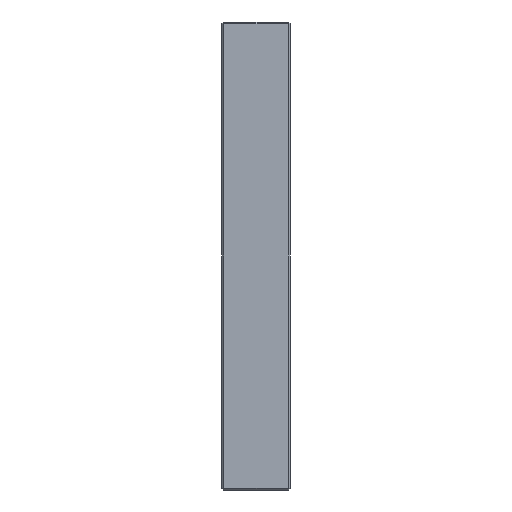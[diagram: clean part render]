
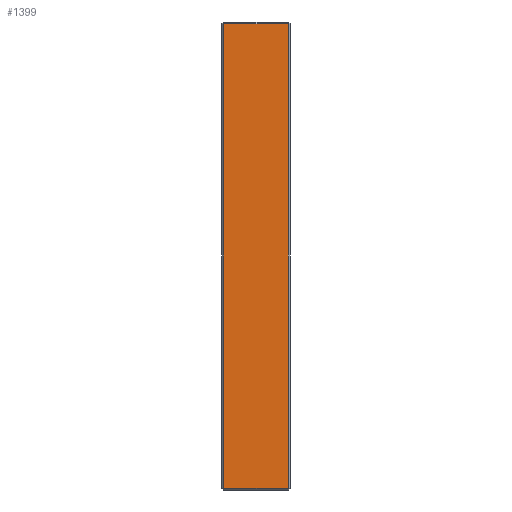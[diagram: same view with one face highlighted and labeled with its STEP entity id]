
A CAD part, left-side view. The second image highlights one B-rep face of the part: STEP entity #1399.
In plain terms, the highlighted planar face has unit normal (-1, 0, 0).
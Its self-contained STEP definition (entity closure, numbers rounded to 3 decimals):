
#3 = CARTESIAN_POINT ( 'NONE',  ( -123., 36., 122. ) ) ;
#4 = DIRECTION ( 'NONE',  ( 0., 0., -1. ) ) ;
#59 = ORIENTED_EDGE ( 'NONE', *, *, #733, .T. ) ;
#68 = LINE ( 'NONE', #735, #1520 ) ;
#114 = VERTEX_POINT ( 'NONE', #1698 ) ;
#296 = EDGE_LOOP ( 'NONE', ( #1778, #618, #1843, #59 ) ) ;
#334 = VERTEX_POINT ( 'NONE', #463 ) ;
#335 = LINE ( 'NONE', #3, #1061 ) ;
#379 = LINE ( 'NONE', #881, #1880 ) ;
#463 = CARTESIAN_POINT ( 'NONE',  ( -123., 35., -122. ) ) ;
#556 = CARTESIAN_POINT ( 'NONE',  ( -123., 1., 122. ) ) ;
#561 = VERTEX_POINT ( 'NONE', #556 ) ;
#618 = ORIENTED_EDGE ( 'NONE', *, *, #694, .T. ) ;
#644 = DIRECTION ( 'NONE',  ( 0., 1., 0. ) ) ;
#662 = VERTEX_POINT ( 'NONE', #748 ) ;
#682 = EDGE_CURVE ( 'NONE', #334, #662, #68, .T. ) ;
#694 = EDGE_CURVE ( 'NONE', #662, #561, #379, .T. ) ;
#719 = EDGE_CURVE ( 'NONE', #561, #114, #335, .T. ) ;
#733 = EDGE_CURVE ( 'NONE', #114, #334, #1476, .T. ) ;
#735 = CARTESIAN_POINT ( 'NONE',  ( -123., 36., -122. ) ) ;
#748 = CARTESIAN_POINT ( 'NONE',  ( -123., 1., -122. ) ) ;
#769 = DIRECTION ( 'NONE',  ( 0., 0., 1. ) ) ;
#820 = DIRECTION ( 'NONE',  ( 1., 0., 0. ) ) ;
#836 = AXIS2_PLACEMENT_3D ( 'NONE', #1035, #820, #4 ) ;
#857 = PLANE ( 'NONE',  #836 ) ;
#881 = CARTESIAN_POINT ( 'NONE',  ( -123., 1., 123. ) ) ;
#918 = DIRECTION ( 'NONE',  ( 0., 0., -1. ) ) ;
#946 = DIRECTION ( 'NONE',  ( 0., -1., 0. ) ) ;
#1035 = CARTESIAN_POINT ( 'NONE',  ( -123., 36., 123. ) ) ;
#1061 = VECTOR ( 'NONE', #644, 1000. ) ;
#1079 = CARTESIAN_POINT ( 'NONE',  ( -123., 35., -123. ) ) ;
#1399 = ADVANCED_FACE ( 'NONE', ( #1578 ), #857, .F. ) ;
#1476 = LINE ( 'NONE', #1079, #1856 ) ;
#1520 = VECTOR ( 'NONE', #946, 1000. ) ;
#1578 = FACE_OUTER_BOUND ( 'NONE', #296, .T. ) ;
#1698 = CARTESIAN_POINT ( 'NONE',  ( -123., 35., 122. ) ) ;
#1778 = ORIENTED_EDGE ( 'NONE', *, *, #682, .T. ) ;
#1843 = ORIENTED_EDGE ( 'NONE', *, *, #719, .T. ) ;
#1856 = VECTOR ( 'NONE', #918, 1000. ) ;
#1880 = VECTOR ( 'NONE', #769, 1000. ) ;
